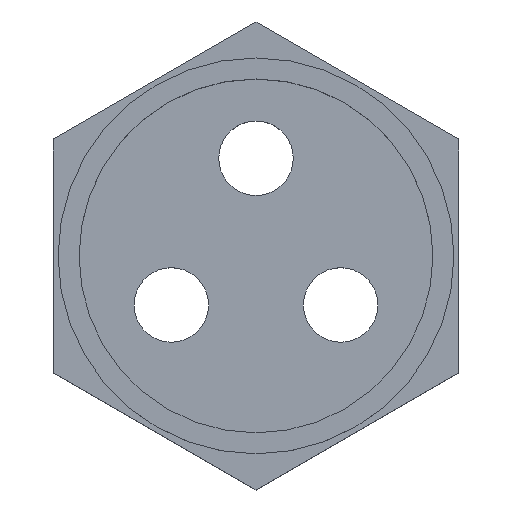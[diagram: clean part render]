
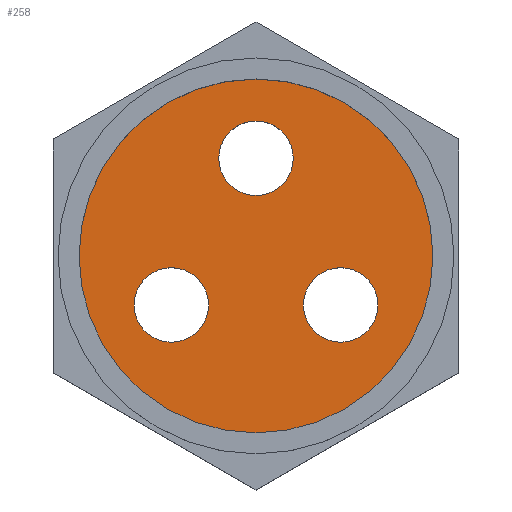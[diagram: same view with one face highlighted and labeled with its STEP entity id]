
A CAD part, top view. The second image highlights one B-rep face of the part: STEP entity #258.
In plain terms, the highlighted planar face has unit normal (0, 0, 1).
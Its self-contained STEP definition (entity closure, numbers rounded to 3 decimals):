
#16=FACE_BOUND('',#55,.T.);
#17=FACE_BOUND('',#56,.T.);
#18=FACE_BOUND('',#57,.T.);
#24=PLANE('',#296);
#38=FACE_OUTER_BOUND('',#54,.T.);
#54=EDGE_LOOP('',(#200));
#55=EDGE_LOOP('',(#201));
#56=EDGE_LOOP('',(#202));
#57=EDGE_LOOP('',(#203));
#118=CIRCLE('',#284,1.6);
#120=CIRCLE('',#287,1.6);
#122=CIRCLE('',#290,1.6);
#123=CIRCLE('',#292,7.6);
#128=VERTEX_POINT('',#386);
#130=VERTEX_POINT('',#392);
#132=VERTEX_POINT('',#398);
#133=VERTEX_POINT('',#402);
#151=EDGE_CURVE('',#128,#128,#118,.T.);
#154=EDGE_CURVE('',#130,#130,#120,.T.);
#157=EDGE_CURVE('',#132,#132,#122,.T.);
#158=EDGE_CURVE('',#133,#133,#123,.T.);
#200=ORIENTED_EDGE('',*,*,#158,.T.);
#201=ORIENTED_EDGE('',*,*,#151,.F.);
#202=ORIENTED_EDGE('',*,*,#154,.F.);
#203=ORIENTED_EDGE('',*,*,#157,.F.);
#258=ADVANCED_FACE('',(#38,#16,#17,#18),#24,.F.);
#284=AXIS2_PLACEMENT_3D('',#388,#314,#315);
#287=AXIS2_PLACEMENT_3D('',#394,#321,#322);
#290=AXIS2_PLACEMENT_3D('',#400,#328,#329);
#292=AXIS2_PLACEMENT_3D('',#403,#332,#333);
#296=AXIS2_PLACEMENT_3D('',#410,#341,#342);
#314=DIRECTION('center_axis',(0.,0.,
1.));
#315=DIRECTION('ref_axis',(-1.,0.,0.));
#321=DIRECTION('center_axis',(0.,0.,
1.));
#322=DIRECTION('ref_axis',(-1.,0.,0.));
#328=DIRECTION('center_axis',(0.,0.,
1.));
#329=DIRECTION('ref_axis',(-1.,0.,0.));
#332=DIRECTION('center_axis',(0.,0.,
1.));
#333=DIRECTION('ref_axis',(1.,0.,0.));
#341=DIRECTION('center_axis',(0.,0.,
-1.));
#342=DIRECTION('ref_axis',(1.,0.,0.));
#386=CARTESIAN_POINT('',(-2.037,-2.1,17.));
#388=CARTESIAN_POINT('Origin',(-3.637,-2.1,17.));
#392=CARTESIAN_POINT('',(5.237,-2.1,17.));
#394=CARTESIAN_POINT('Origin',(3.637,-2.1,17.));
#398=CARTESIAN_POINT('',(1.6,4.2,17.));
#400=CARTESIAN_POINT('Origin',(0.,4.2,17.));
#402=CARTESIAN_POINT('',(-7.6,0.,17.));
#403=CARTESIAN_POINT('Origin',(0.,0.,
17.));
#410=CARTESIAN_POINT('Origin',(0.,0.,
17.));
